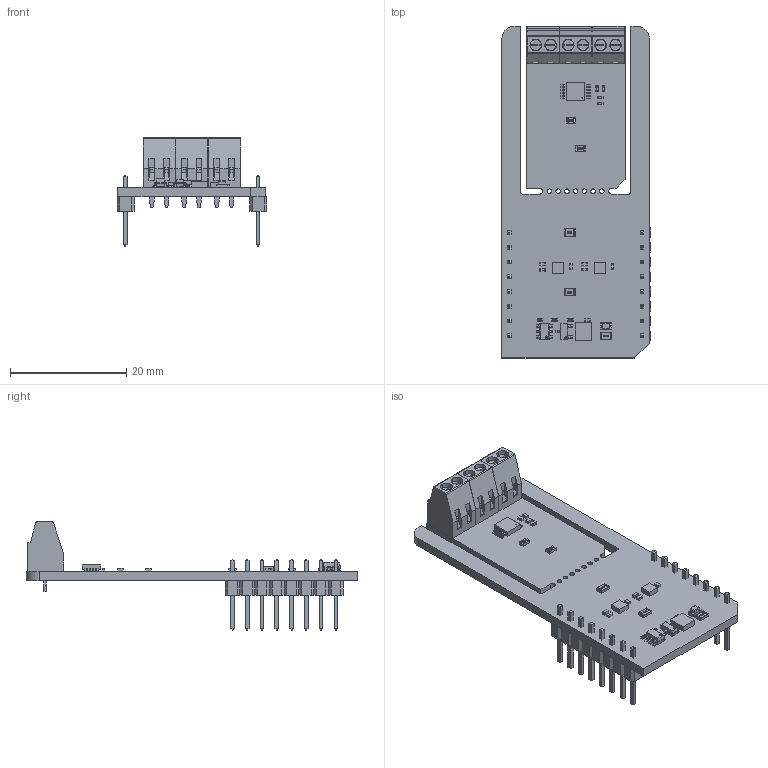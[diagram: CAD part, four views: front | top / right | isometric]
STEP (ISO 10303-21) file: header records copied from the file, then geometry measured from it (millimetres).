
FILE_DESCRIPTION(('Open CASCADE Model'),'2;1');
FILE_NAME('Open CASCADE Shape Model','2026-01-29T11:05:00',('Author'),( 'Open CASCADE'),'Open CASCADE STEP processor 6.8','Open CASCADE 6.8' ,'Unknown');
FILE_SCHEMA(('AUTOMOTIVE_DESIGN { 1 0 10303 214 1 1 1 1 }'));
Length unit declared in the file: millimetre
Products named in the file (51): PCB; Board; C5; User_Library-SMD_CAPACITOR0402; JP4; User_Library-R_0805; C10; C9; C8; C7; C6; U4; 1116287928; Extruded; MBD1; Header_1x8; Free-Models; 1240637040; User_Library-PinHeaderX5-1_PinHeaderX5_Body_1; User_Library-PinHeaderX5-1_PinHeaderX5_Pins_1; JP1; C2; C3; TB2; ScrewTerminal_2.54; U5; C4; C11; U3; TSSOP10_3X3_MCH; U2; User_Library-SOT23-6-2; U1; 1116290920; Q1; SOT23-3; R4; User_Library-R_0402; C1; R2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
Assembly tree (70 placements, depth 7):
  PCB
    Board
    C5
      User_Library-SMD_CAPACITOR0402
    JP4
      User_Library-R_0805
    C10
      User_Library-SMD_CAPACITOR0402
    C9
      User_Library-SMD_CAPACITOR0402
    C8
      User_Library-SMD_CAPACITOR0402
    C7
      User_Library-SMD_CAPACITOR0402
    C6
      User_Library-SMD_CAPACITOR0402
    U4
      1116287928
        Extruded
    MBD1
      Header_1x8  x2
        PCB
          Free-Models
            1240637040  x2
              User_Library-PinHeaderX5-1_PinHeaderX5_Body_1
              User_Library-PinHeaderX5-1_PinHeaderX5_Pins_1
    JP1
      User_Library-R_0805
    C2
      User_Library-SMD_CAPACITOR0402
    C3
      User_Library-SMD_CAPACITOR0402
    TB2
      ScrewTerminal_2.54
    U5
      1116287928
        Extruded
    C4
      User_Library-SMD_CAPACITOR0402
    C11
      User_Library-SMD_CAPACITOR0402
    U3
      TSSOP10_3X3_MCH
    U2
      User_Library-SOT23-6-2
    U1
      1116290920
        Extruded
    Q1
      SOT23-3
    R4
      User_Library-R_0402
    C1
      User_Library-SMD_CAPACITOR0402
    R2
      User_Library-R_0402
    LD1
      led_0805_green
    R1
      User_Library-R_0805
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Bounding box: 25.78 x 57.15 x 18.61 mm (x, y, z)
Volume: 3229.8 mm3; surface area: 6855 mm2
Topology: 91 solids, 91 shells, 2565 faces, 6444 edges, 4060 vertices
Faces by surface type: plane 1775, cylinder 400, bspline 294, sphere 96
Full cylindrical faces by diameter (mm): 0.16 x1, 0.8 x7
Entity records: 42817 total; most frequent: CARTESIAN_POINT 12535, ORIENTED_EDGE 5120, DIRECTION 4607, EDGE_CURVE 2560, LINE 1995, VECTOR 1995, VERTEX_POINT 1660, AXIS2_PLACEMENT_3D 1306
